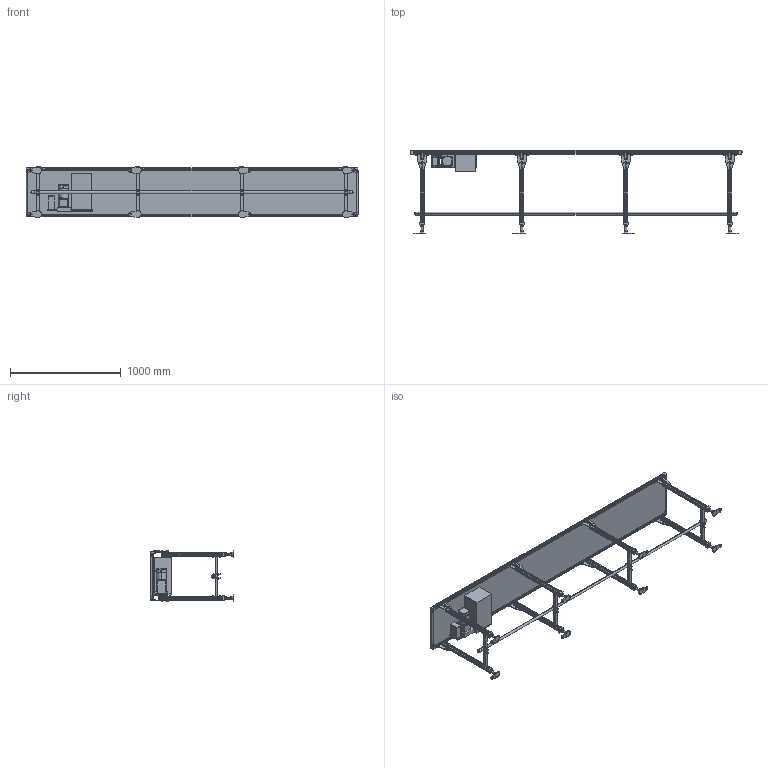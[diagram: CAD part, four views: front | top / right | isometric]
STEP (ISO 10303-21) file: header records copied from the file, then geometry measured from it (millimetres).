
FILE_DESCRIPTION (( 'STEP AP214' ), '1' );
FILE_NAME ('MMX2K-90-400-3000.STEP', '2022-10-25T02:14:17', ( '' ), ( '' ), 'SwSTEP 2.0', 'SolidWorks 2017', '' );
FILE_SCHEMA (( 'AUTOMOTIVE_DESIGN' ));
Length unit declared in the file: millimetre
Products named in the file (1): MMX2K-90-400-3000
Bounding box: 3001.6 x 752.8 x 464.11 mm (x, y, z)
Volume: 27242010.9 mm3; surface area: 10908276 mm2
Topology: 66 solids, 66 shells, 3321 faces, 8569 edges, 5529 vertices
Faces by surface type: plane 2292, cylinder 859, cone 108, bspline 32, torus 24, sphere 6
Entity records: 102714 total; most frequent: CARTESIAN_POINT 20139, ORIENTED_EDGE 17106, DIRECTION 16677, EDGE_CURVE 8553, VECTOR 6271, LINE 6271, VERTEX_POINT 5529, AXIS2_PLACEMENT_3D 5203
